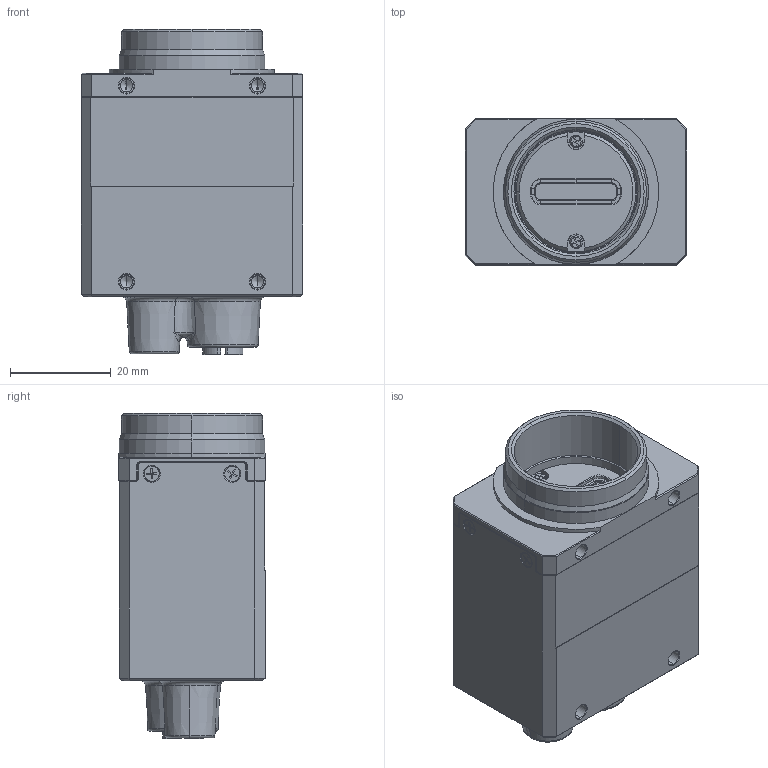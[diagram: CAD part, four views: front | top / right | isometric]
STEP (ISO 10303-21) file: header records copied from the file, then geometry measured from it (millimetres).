
FILE_DESCRIPTION (( 'STEP AP203' ), '1' );
FILE_NAME ('492-496-C_LS.STEP', '2025-03-10T15:42:25', ( '' ), ( '' ), 'SwSTEP 2.0', 'SolidWorks 2021', '' );
FILE_SCHEMA (( 'CONFIG_CONTROL_DESIGN' ));
Length unit declared in the file: millimetre
Products named in the file (1): 492-496-C_LS
Bounding box: 44 x 29 x 64.53 mm (x, y, z)
Volume: 57955.7 mm3; surface area: 12808.8 mm2
Topology: 3 solids, 9 shells, 763 faces, 1886 edges, 1178 vertices
Faces by surface type: plane 336, cylinder 192, cone 121, bspline 84, torus 30
Entity records: 25369 total; most frequent: CARTESIAN_POINT 7570, ORIENTED_EDGE 3732, DIRECTION 3690, EDGE_CURVE 1866, AXIS2_PLACEMENT_3D 1354, VERTEX_POINT 1178, LINE 982, VECTOR 982
